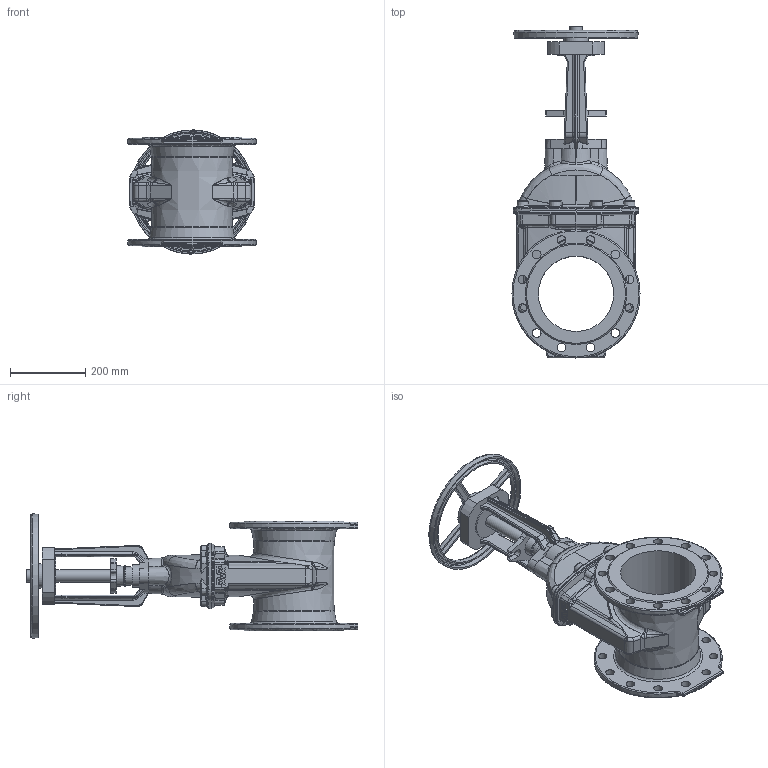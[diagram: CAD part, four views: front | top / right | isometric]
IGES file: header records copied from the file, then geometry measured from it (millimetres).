
Start section: SolidWorks IGES file using analytic representation for surfaces
Global section: file name: \\avksan2\techshare\PBM outline export from Enovia\O_21_34_DN200_41XXXXX close_AA0.igs; native system: SolidWorks 2012; preprocessor: SolidWorks 2012; author: pbm; date: 200212.102202; units: millimetre
Bounding box: 340 x 881.37 x 329.91 mm (x, y, z)
Surface area: 1217770.5 mm2 (no closed solid volume)
Topology: 0 solids, 0 shells, 856 faces, 4458 edges, 4330 vertices
Faces by surface type: revolution 436, bspline 420
